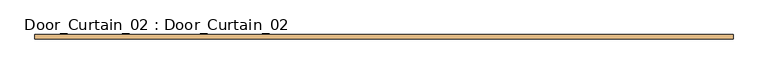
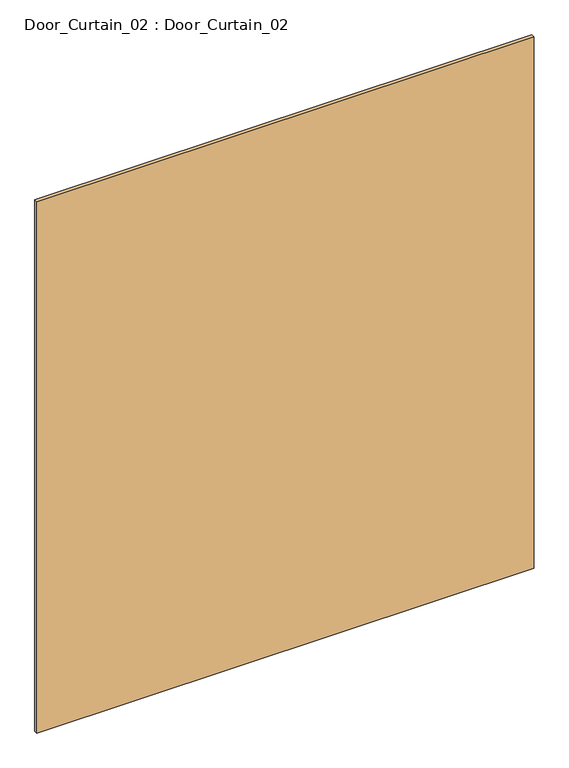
"""IFC4 building model written with IfcOpenShell, lengths in millimetres: door geometry, Door_Curtain_02 : Door_Curtain_02."""

from ifc_helpers import new_model, si_unit, origin, origin_with_axes, place, context, project, spatial, polyline, outline, extrude, source, transform, mapped, element, save


def door_curtain_02_door_curtain_02_6343a127(model_context):
    return source(origin(), model_context, "Body", "SweptSolid", [
        extrude(outline(polyline([(979.9655411, -5.0), (-979.9655411, -5.0), (-979.9655411, 7.7), (979.9655411, 7.7), (979.9655411, -5.0)])), origin_with_axes(), (0.0, 0.0, 1.0), 2213.5608581),
    ])


if __name__ == "__main__":
    model = new_model("IFC4")
    model_context = context("Model", 3, world=origin())
    ifc_project = project(units=[si_unit("LENGTHUNIT", "METRE", prefix="MILLI")], contexts=[model_context])
    site = spatial("IfcSite", under=ifc_project)
    building = spatial("IfcBuilding", under=site)
    placement = place(None, origin())
    door_curtain_02_door_curtain_02_shape = door_curtain_02_door_curtain_02_6343a127(model_context)
    element("IfcDoor", 1, ObjectType="Door_Curtain_02 : Door_Curtain_02", at=placement, inside=building, context=model_context, shape_type="MappedRepresentation", body=[
        mapped(door_curtain_02_door_curtain_02_shape, transform((0.0, 0.0, 0.0), x_axis=(1.0, 0.0, 0.0), y_axis=(0.0, 1.0, 0.0), z_axis=(0.0, 0.0, 1.0))),
    ])
    save(model, "model.ifc")
